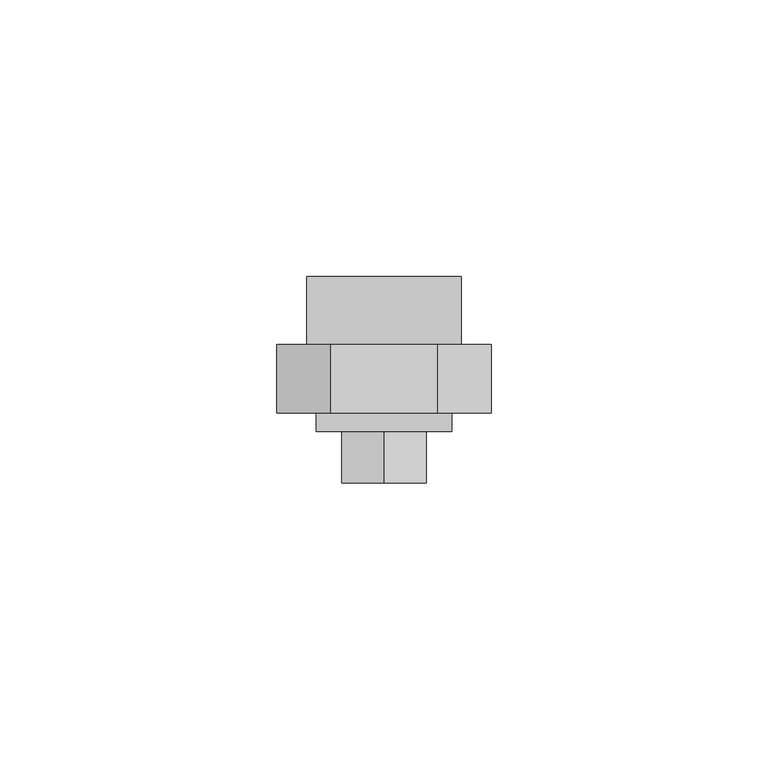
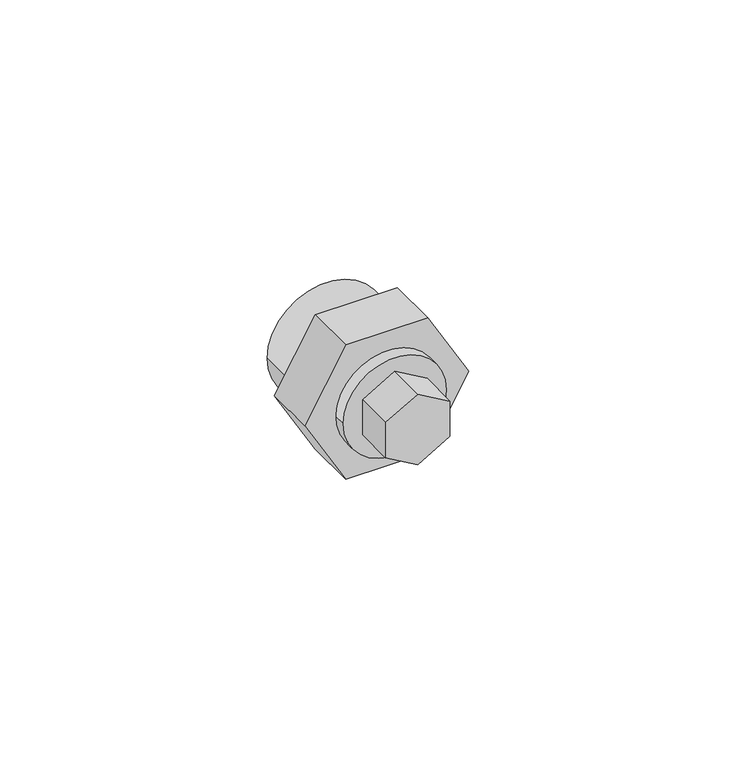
"""IFC4 building model written with IfcOpenShell, lengths in millimetres: pipe fitting geometry, EGB_VASEN_ PPR_Enlace desmontable rosca hembra WXR104 : Enlace desmontable rosca hembra WXR104."""

from ifc_helpers import new_model, si_unit, point, frame, origin, origin_2d, place, context, project, spatial, polyline, circle_curve, trimmed, segment, composite_curve, outline, extrude, source, transform, mapped, element, save


def pipe_fitting_4757c884(model_context):
    return source(origin(), model_context, "Body", "SweptSolid", [
        extrude(outline(polyline([(-4.3994091, -7.62), (-8.7988181, 0.0), (-4.3994091, 7.62), (4.3994091, 7.62), (8.7988181, 0.0), (4.3994091, -7.62), (-4.3994091, -7.62)])), frame((0.0, -24.42125, 0.0), z_axis=(0.0, 1.0, 0.0), x_axis=(0.0, 0.0, 1.0)), (0.0, 0.0, 1.0), 9.3333333),
        extrude(outline(polyline([(0.0, 19.398969), (16.8, 9.6994845), (16.8, -9.6994845), (0.0, -19.398969), (-16.8, -9.6994845), (-16.8, 9.6994845), (0.0, 19.398969)])), frame((0.0, -11.7204167, 0.0), z_axis=(0.0, 1.0, 0.0), x_axis=(0.0, 0.0, 1.0)), (0.0, 0.0, 1.0), 12.3333333),
        extrude(outline(composite_curve([segment(trimmed(circle_curve(origin_2d(), 12.21), [point((0.0, -12.21))], [point((0.0, 12.21))], False, "CARTESIAN"), True, "CONTINUOUS"), segment(trimmed(circle_curve(origin_2d(), 12.21), [point((0.0, 12.21))], [point((0.0, -12.21))], False, "CARTESIAN"), True, "CONTINUOUS")], self_intersect=False)), frame((0.0, -15.0879167, 0.0), z_axis=(0.0, 1.0, 0.0), x_axis=(0.0, 0.0, 1.0)), (0.0, 0.0, 1.0), 3.3675),
        extrude(outline(composite_curve([segment(trimmed(circle_curve(origin_2d(), 14.0), [point((0.0, -14.0))], [point((0.0, 14.0))], False, "CARTESIAN"), True, "CONTINUOUS"), segment(trimmed(circle_curve(origin_2d(), 14.0), [point((0.0, 14.0))], [point((0.0, -14.0))], False, "CARTESIAN"), True, "CONTINUOUS")], self_intersect=False), holes=[composite_curve([segment(trimmed(circle_curve(origin_2d(), 10.0), [point((0.0, -10.0))], [point((0.0, 10.0))], True, "CARTESIAN"), True, "CONTINUOUS"), segment(trimmed(circle_curve(origin_2d(), 10.0), [point((0.0, 10.0))], [point((0.0, -10.0))], True, "CARTESIAN"), True, "CONTINUOUS")], self_intersect=False)]), frame((0.0, 0.6129167, 0.0), z_axis=(0.0, 1.0, 0.0), x_axis=(0.0, 0.0, 1.0)), (0.0, 0.0, 1.0), 12.3333333),
    ])


if __name__ == "__main__":
    model = new_model("IFC4")
    model_context = context("Model", 3, world=origin())
    ifc_project = project(units=[si_unit("LENGTHUNIT", "METRE", prefix="MILLI")], contexts=[model_context])
    site = spatial("IfcSite", under=ifc_project)
    building = spatial("IfcBuilding", under=site)
    placement = place(None, origin())
    pipe_fitting_shape = pipe_fitting_4757c884(model_context)
    element("IfcPipeFitting", 1, ObjectType="EGB_VASEN_ PPR_Enlace desmontable rosca hembra WXR104 : Enlace desmontable rosca hembra WXR104", at=placement, inside=building, context=model_context, shape_type="MappedRepresentation", body=[
        mapped(pipe_fitting_shape, transform((0.0, 0.0, 0.0), x_axis=(1.0, 0.0, 0.0), y_axis=(0.0, 1.0, 0.0), z_axis=(0.0, 0.0, 1.0))),
    ])
    save(model, "model.ifc")
